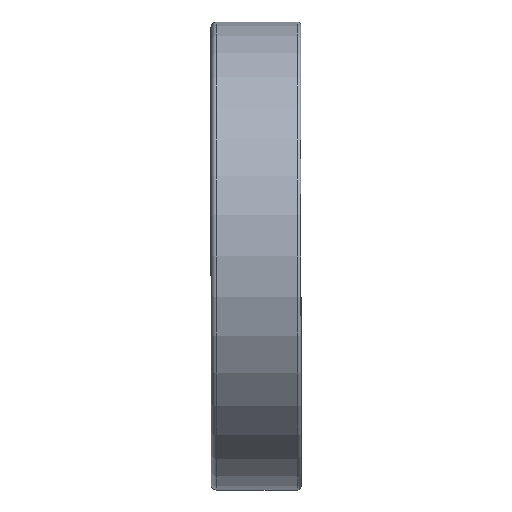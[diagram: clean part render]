
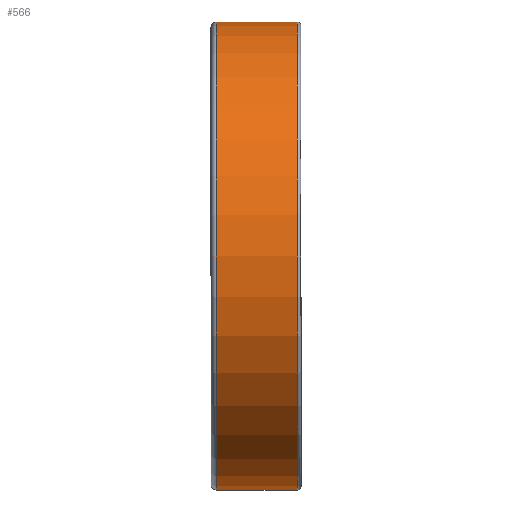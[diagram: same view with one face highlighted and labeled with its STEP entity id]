
A CAD part, front view. The second image highlights one B-rep face of the part: STEP entity #566.
In plain terms, the highlighted cylindrical face has radius 13 mm (diameter 26 mm), a full revolution.
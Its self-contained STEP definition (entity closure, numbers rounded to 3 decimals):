
#170=CYLINDRICAL_SURFACE('',#890,13.);
#274=EDGE_LOOP('',(#390));
#275=EDGE_LOOP('',(#391));
#390=ORIENTED_EDGE('',*,*,#456,.F.);
#391=ORIENTED_EDGE('',*,*,#454,.T.);
#454=EDGE_CURVE('',#815,#815,#474,.T.);
#456=EDGE_CURVE('',#817,#817,#476,.T.);
#474=CIRCLE('',#886,13.);
#476=CIRCLE('',#889,13.);
#566=ADVANCED_FACE('',(#713,#714),#170,.T.);
#713=FACE_BOUND('',#274,.T.);
#714=FACE_BOUND('',#275,.T.);
#815=VERTEX_POINT('',#3386);
#817=VERTEX_POINT('',#3391);
#886=AXIS2_PLACEMENT_3D('',#3385,#1017,#1018);
#889=AXIS2_PLACEMENT_3D('',#3390,#1023,#1024);
#890=AXIS2_PLACEMENT_3D('',#3392,#1025,#1026);
#1017=DIRECTION('',(1.,0.,0.));
#1018=DIRECTION('',(0.,0.,-1.));
#1023=DIRECTION('',(1.,0.,0.));
#1024=DIRECTION('',(0.,0.,-1.));
#1025=DIRECTION('',(1.,0.,0.));
#1026=DIRECTION('',(0.,0.,-1.));
#3385=CARTESIAN_POINT('',(-2.2,0.,0.));
#3386=CARTESIAN_POINT('',(-2.2,0.,-13.));
#3390=CARTESIAN_POINT('',(2.3,0.,0.));
#3391=CARTESIAN_POINT('',(2.3,0.,-13.));
#3392=CARTESIAN_POINT('',(-2.2,0.,0.));
